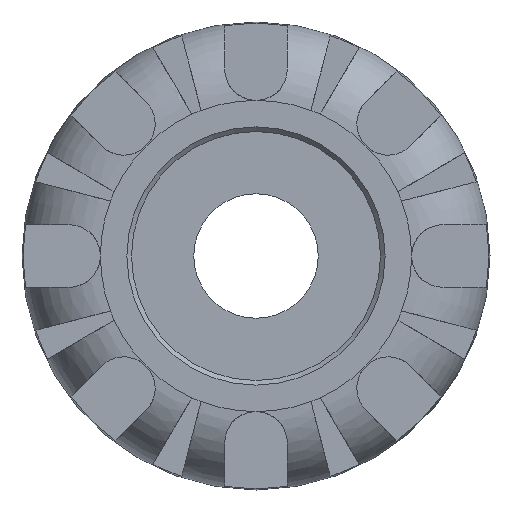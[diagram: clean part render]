
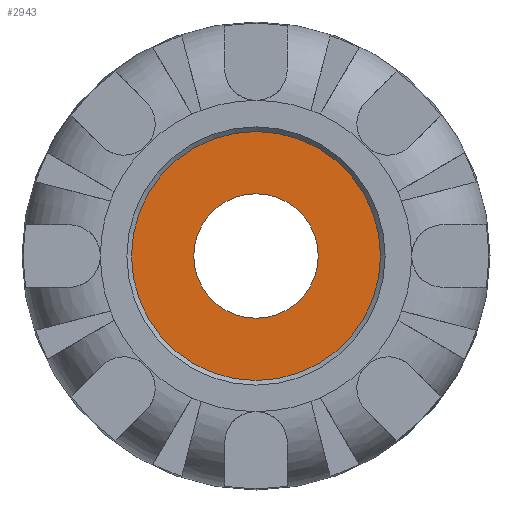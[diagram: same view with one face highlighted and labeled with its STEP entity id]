
A CAD part, left-side view. The second image highlights one B-rep face of the part: STEP entity #2943.
In plain terms, the highlighted planar face has unit normal (-1, 0, 0).
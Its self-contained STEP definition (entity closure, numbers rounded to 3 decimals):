
#34=FACE_BOUND('',#582,.T.);
#147=CIRCLE('',#3142,12.5);
#188=CIRCLE('',#3257,6.25);
#402=FACE_OUTER_BOUND('',#581,.T.);
#581=EDGE_LOOP('',(#2503));
#582=EDGE_LOOP('',(#2504));
#1165=VERTEX_POINT('',#5487);
#1256=VERTEX_POINT('',#6548);
#1511=EDGE_CURVE('',#1165,#1165,#147,.T.);
#1672=EDGE_CURVE('',#1256,#1256,#188,.T.);
#2503=ORIENTED_EDGE('',*,*,#1511,.F.);
#2504=ORIENTED_EDGE('',*,*,#1672,.T.);
#2612=PLANE('',#3258);
#2943=ADVANCED_FACE('',(#402,#34),#2612,.T.);
#3142=AXIS2_PLACEMENT_3D('',#5488,#3729,#3730);
#3257=AXIS2_PLACEMENT_3D('',#6549,#4027,#4028);
#3258=AXIS2_PLACEMENT_3D('',#6550,#4029,#4030);
#3729=DIRECTION('center_axis',(1.,0.,0.));
#3730=DIRECTION('ref_axis',(0.,0.,-1.));
#4027=DIRECTION('center_axis',(1.,0.,0.));
#4028=DIRECTION('ref_axis',(0.,0.,-1.));
#4029=DIRECTION('center_axis',(-1.,0.,0.));
#4030=DIRECTION('ref_axis',(0.,0.,1.));
#5487=CARTESIAN_POINT('',(-2.,12.5,0.));
#5488=CARTESIAN_POINT('Origin',(-2.,0.,
0.));
#6548=CARTESIAN_POINT('',(-2.,6.25,0.));
#6549=CARTESIAN_POINT('Origin',(-2.,0.,
0.));
#6550=CARTESIAN_POINT('Origin',(-2.,12.5,0.));
